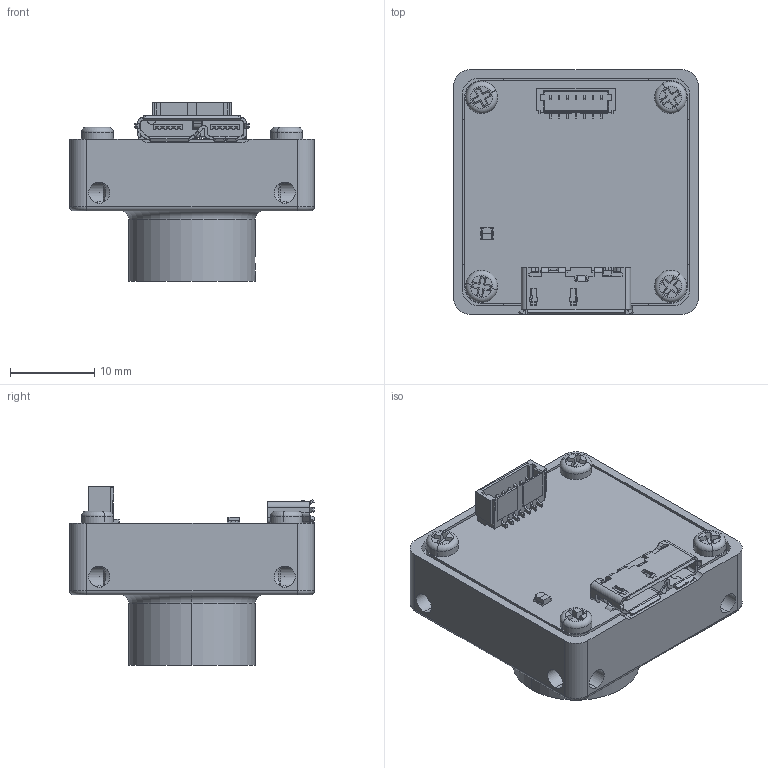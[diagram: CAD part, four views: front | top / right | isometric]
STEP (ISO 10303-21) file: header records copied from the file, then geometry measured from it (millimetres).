
FILE_DESCRIPTION (( 'STEP AP214' ), '1' );
FILE_NAME ('Aria_Smount.STEP', '2020-07-14T10:07:32', ( '' ), ( '' ), 'SwSTEP 2.0', 'SolidWorks 2019', '' );
FILE_SCHEMA (( 'AUTOMOTIVE_DESIGN' ));
Length unit declared in the file: millimetre
Products named in the file (6): S-mount; Filtro; Vite_M2_M2x3; Aria_Smount; Guarnizione; ariasn
Assembly tree (8 placements, depth 2):
  Aria_Smount
    S-mount
    Guarnizione
    Filtro
    Vite_M2_M2x3  x4
    ariasn
Bounding box: 29 x 29 x 21.15 mm (x, y, z)
Volume: 6101.5 mm3; surface area: 8558.8 mm2
Topology: 23 solids, 23 shells, 1804 faces, 4651 edges, 3008 vertices
Faces by surface type: plane 1040, cylinder 652, cone 76, torus 20, bspline 16
Entity records: 72420 total; most frequent: CARTESIAN_POINT 12156, ORIENTED_EDGE 8894, DIRECTION 8877, EDGE_CURVE 4447, VECTOR 2961, LINE 2961, AXIS2_PLACEMENT_3D 2958, VERTEX_POINT 2900
